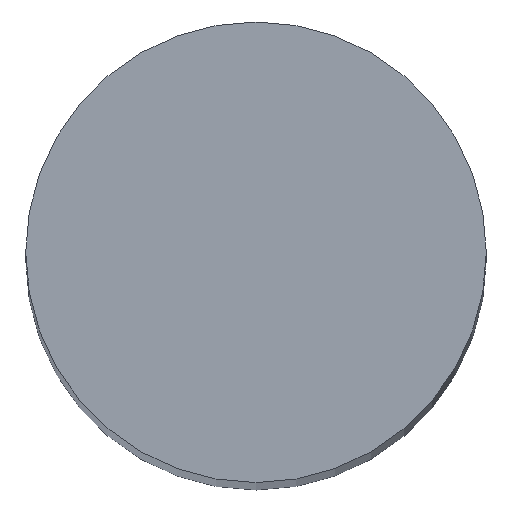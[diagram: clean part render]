
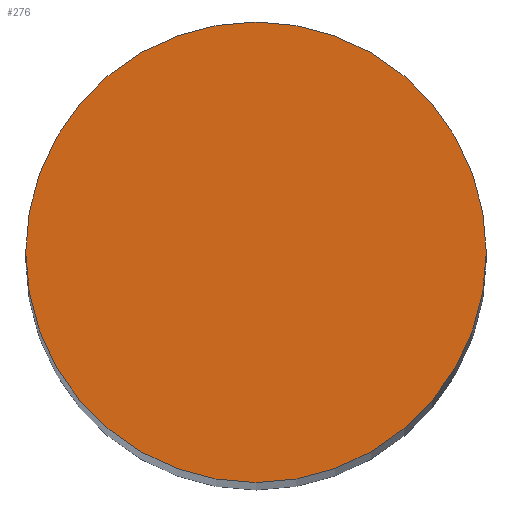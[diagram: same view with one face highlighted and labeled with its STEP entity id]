
A CAD part, top view. The second image highlights one B-rep face of the part: STEP entity #276.
In plain terms, the highlighted planar face has unit normal (0, 0, 1).
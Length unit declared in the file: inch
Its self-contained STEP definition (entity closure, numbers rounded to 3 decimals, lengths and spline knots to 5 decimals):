
#217=CARTESIAN_POINT('',(0.0,-0.07875,1.9685));
#218=VERTEX_POINT('',#217);
#225=CARTESIAN_POINT('',(0.0,0.07875,1.9685));
#226=VERTEX_POINT('',#225);
#227=CARTESIAN_POINT('',(0.0,0.0,1.9685));
#228=DIRECTION('',(0.0,-0.0,-1.0));
#229=DIRECTION('',(0.0,1.0,-0.0));
#230=AXIS2_PLACEMENT_3D('',#227,#228,#229);
#231=CIRCLE('',#230,0.07875);
#232=EDGE_CURVE('no 1919',#218,#226,#231,.T.);
#252=CARTESIAN_POINT('',(0.0,0.0,1.9685));
#253=DIRECTION('',(0.0,-0.0,-1.0));
#254=DIRECTION('',(0.0,1.0,-0.0));
#255=AXIS2_PLACEMENT_3D('',#252,#253,#254);
#256=CIRCLE('',#255,0.07875);
#257=EDGE_CURVE('no 1923',#226,#218,#256,.T.);
#267=ORIENTED_EDGE('',*,*,#232,.F.);
#268=ORIENTED_EDGE('',*,*,#257,.F.);
#269=EDGE_LOOP('',(#267,#268));
#270=FACE_OUTER_BOUND('',#269,.T.);
#271=CARTESIAN_POINT('',(0.07875,0.0,1.9685));
#272=DIRECTION('',(0.0,0.0,1.0));
#273=DIRECTION('',(0.0,-1.0,0.0));
#274=AXIS2_PLACEMENT_3D('',#271,#272,#273);
#275=PLANE('',#274);
#276=ADVANCED_FACE('no 2070',(#270),#275,.T.);
